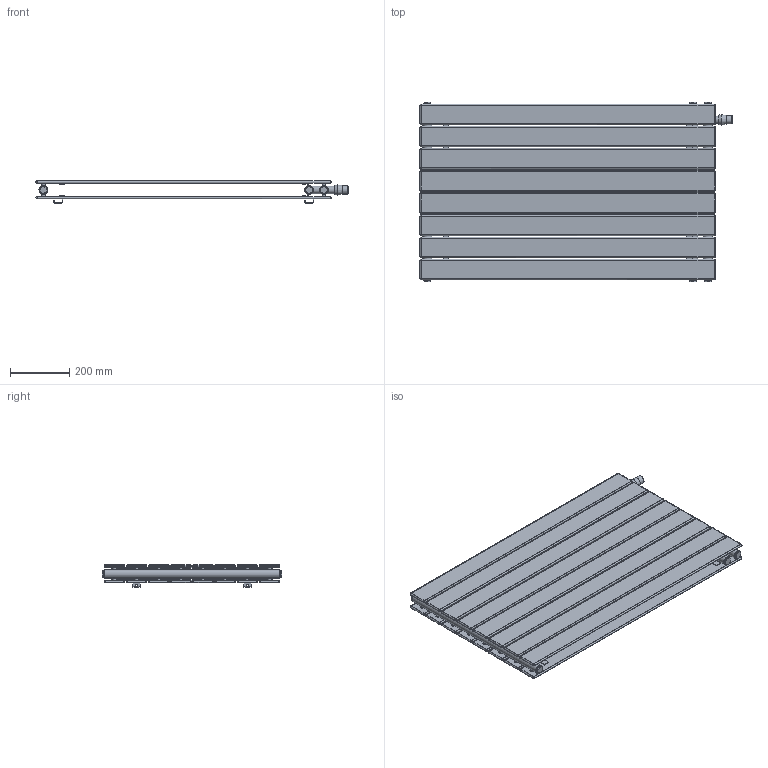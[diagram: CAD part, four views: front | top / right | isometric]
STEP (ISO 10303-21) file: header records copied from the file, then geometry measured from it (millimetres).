
FILE_DESCRIPTION(/* description */ (''),/* implementation_level */ '2;1');
FILE_NAME(/* name */ 'C:\Grzejniki\13DLUXRAD\pokojowe\NIAGARA\to\NIAGARA PODWÓJNA POZIOMA Z WKŁADKĄ TERMOSTATYCZNĄ 595x1000.iam.stp',/* time_stamp */ '2016-06-28T17:33:45+02:00',/* author */ ('m.szydziak'),/* organization */ (''),/* preprocessor_version */ 'ST-DEVELOPER v16.5',/* originating_system */ 'Autodesk Inventor 2017',/* authorisation */ '');
FILE_SCHEMA (('AUTOMOTIVE_DESIGN { 1 0 10303 214 3 1 1 }'));
Length unit declared in the file: millimetre
Products named in the file (9): NIAGARA PODWÓJNA POZIOMA Z WKŁADKĄ TERMOSTA
TYCZNĄ 595x1000; NIAGARA PODWÓJNA 1000x595; 70x8x1,2x1004; michałek; poprzeczka 545; ucho małe; fi30x1,5x595; Głowica Termostatyczna; korek
Assembly tree (67 placements, depth 3):
  NIAGARA PODWÓJNA POZIOMA Z WKŁADKĄ TERMOSTA
TYCZNĄ 595x1000
    NIAGARA PODWÓJNA 1000x595
      fi30x1,5x595  x2
      70x8x1,2x1004  x16
      michałek  x32
      poprzeczka 545  x4
      ucho małe  x4
      korek  x4
    fi30x1,5x595
    Głowica Termostatyczna
    korek  x2
Bounding box: 1056.85 x 607 x 75 mm (x, y, z)
Volume: 3260791.3 mm3; surface area: 5135822.7 mm2
Topology: 66 solids, 66 shells, 862 faces, 1903 edges, 1157 vertices
Faces by surface type: plane 388, cylinder 324, sphere 128, bspline 16, torus 4, cone 2
Full cylindrical faces by diameter (mm): 8 x32, 9 x32, 10 x32, 11.5 x32, 18.631 x6, 24 x6, 25 x1, 27 x3, 28 x1, 30 x3
Entity records: 4000 total; most frequent: CARTESIAN_POINT 935, DIRECTION 666, ORIENTED_EDGE 452, AXIS2_PLACEMENT_3D 271, EDGE_CURVE 226, VERTEX_POINT 150, EDGE_LOOP 142, LINE 124
